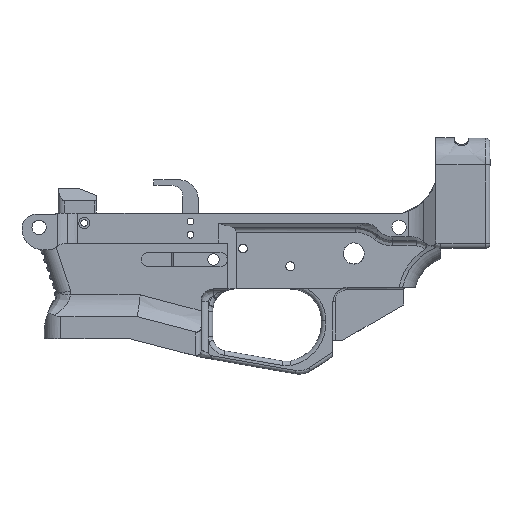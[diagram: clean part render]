
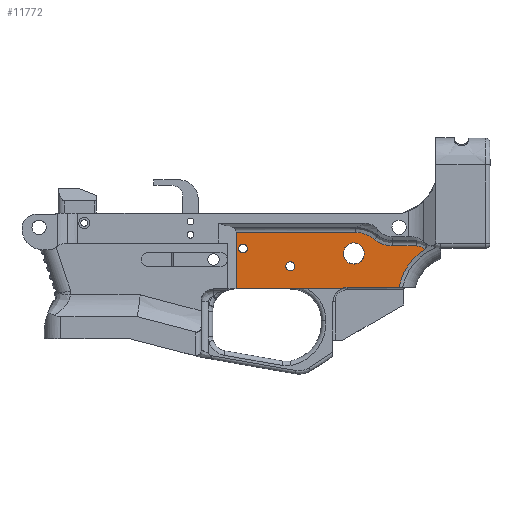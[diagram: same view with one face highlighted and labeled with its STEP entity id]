
A CAD part, left-side view. The second image highlights one B-rep face of the part: STEP entity #11772.
In plain terms, the highlighted planar face has unit normal (-1, 0, 0) as drawn and (1, 0, 0) by its records, which use the part's own axes.
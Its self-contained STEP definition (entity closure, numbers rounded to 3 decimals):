
#218=FACE_BOUND('',#1731,.T.);
#219=FACE_BOUND('',#1732,.T.);
#220=FACE_BOUND('',#1733,.T.);
#337=PLANE('',#12592);
#603=CIRCLE('',#12593,6.35);
#604=CIRCLE('',#12594,4.763);
#605=CIRCLE('',#12595,4.763);
#606=CIRCLE('',#12596,1.981);
#607=CIRCLE('',#12597,1.981);
#1046=FACE_OUTER_BOUND('',#1730,.T.);
#1730=EDGE_LOOP('',(#8945,#8946,#8947,#8948,#8949,#8950,#8951,#8952,#8953,
#8954));
#1731=EDGE_LOOP('',(#8955,#8956));
#1732=EDGE_LOOP('',(#8957));
#1733=EDGE_LOOP('',(#8958));
#2511=B_SPLINE_CURVE_WITH_KNOTS('',3,(#24650,#24651,#24652,#24653,#24654,
#24655,#24656,#24657,#24658,#24659,#24660,#24661,#24662,#24663,#24664,#24665),
 .UNSPECIFIED.,.F.,.F.,(4,3,3,3,3,4),(1.967,2.017,
2.391,2.578,3.327,4.075),
 .UNSPECIFIED.);
#2512=B_SPLINE_CURVE_WITH_KNOTS('',3,(#24667,#24668,#24669,#24670),
 .UNSPECIFIED.,.F.,.F.,(4,4),(-0.291,0.121),
 .UNSPECIFIED.);
#2513=B_SPLINE_CURVE_WITH_KNOTS('',3,(#24674,#24675,#24676,#24677),
 .UNSPECIFIED.,.F.,.F.,(4,4),(0.77,1.466),
 .UNSPECIFIED.);
#2514=B_SPLINE_CURVE_WITH_KNOTS('',3,(#24679,#24680,#24681,#24682,#24683),
 .UNSPECIFIED.,.F.,.F.,(4,1,4),(0.,0.394,0.92),
 .UNSPECIFIED.);
#3275=LINE('',#23094,#4092);
#3332=LINE('',#24642,#4149);
#3333=LINE('',#24648,#4150);
#3334=LINE('',#24672,#4151);
#3335=LINE('',#24684,#4152);
#4092=VECTOR('',#14217,10.);
#4149=VECTOR('',#14364,10.);
#4150=VECTOR('',#14371,10.);
#4151=VECTOR('',#14372,10.);
#4152=VECTOR('',#14373,10.);
#5094=VERTEX_POINT('',#23091);
#5095=VERTEX_POINT('',#23093);
#5148=VERTEX_POINT('',#24641);
#5149=VERTEX_POINT('',#24645);
#5150=VERTEX_POINT('',#24647);
#5151=VERTEX_POINT('',#24649);
#5152=VERTEX_POINT('',#24666);
#5153=VERTEX_POINT('',#24671);
#5154=VERTEX_POINT('',#24673);
#5155=VERTEX_POINT('',#24678);
#5156=VERTEX_POINT('',#24685);
#5157=VERTEX_POINT('',#24686);
#5158=VERTEX_POINT('',#24689);
#5159=VERTEX_POINT('',#24691);
#6492=EDGE_CURVE('',#5094,#5095,#3275,.T.);
#6581=EDGE_CURVE('',#5095,#5148,#3332,.F.);
#6583=EDGE_CURVE('',#5149,#5094,#603,.T.);
#6584=EDGE_CURVE('',#5150,#5149,#3333,.T.);
#6585=EDGE_CURVE('',#5151,#5150,#2511,.T.);
#6586=EDGE_CURVE('',#5152,#5151,#2512,.T.);
#6587=EDGE_CURVE('',#5153,#5152,#3334,.T.);
#6588=EDGE_CURVE('',#5154,#5153,#2513,.T.);
#6589=EDGE_CURVE('',#5155,#5154,#2514,.T.);
#6590=EDGE_CURVE('',#5148,#5155,#3335,.T.);
#6591=EDGE_CURVE('',#5156,#5157,#604,.T.);
#6592=EDGE_CURVE('',#5157,#5156,#605,.T.);
#6593=EDGE_CURVE('',#5158,#5158,#606,.T.);
#6594=EDGE_CURVE('',#5159,#5159,#607,.T.);
#8945=ORIENTED_EDGE('',*,*,#6581,.F.);
#8946=ORIENTED_EDGE('',*,*,#6492,.F.);
#8947=ORIENTED_EDGE('',*,*,#6583,.F.);
#8948=ORIENTED_EDGE('',*,*,#6584,.F.);
#8949=ORIENTED_EDGE('',*,*,#6585,.F.);
#8950=ORIENTED_EDGE('',*,*,#6586,.F.);
#8951=ORIENTED_EDGE('',*,*,#6587,.F.);
#8952=ORIENTED_EDGE('',*,*,#6588,.F.);
#8953=ORIENTED_EDGE('',*,*,#6589,.F.);
#8954=ORIENTED_EDGE('',*,*,#6590,.F.);
#8955=ORIENTED_EDGE('',*,*,#6591,.F.);
#8956=ORIENTED_EDGE('',*,*,#6592,.F.);
#8957=ORIENTED_EDGE('',*,*,#6593,.F.);
#8958=ORIENTED_EDGE('',*,*,#6594,.F.);
#11772=ADVANCED_FACE('',(#1046,#218,#219,#220),#337,.T.);
#12592=AXIS2_PLACEMENT_3D('',#24644,#14367,#14368);
#12593=AXIS2_PLACEMENT_3D('',#24646,#14369,#14370);
#12594=AXIS2_PLACEMENT_3D('',#24687,#14374,#14375);
#12595=AXIS2_PLACEMENT_3D('',#24688,#14376,#14377);
#12596=AXIS2_PLACEMENT_3D('',#24690,#14378,#14379);
#12597=AXIS2_PLACEMENT_3D('',#24692,#14380,#14381);
#14217=DIRECTION('',(0.,-1.,0.));
#14364=DIRECTION('',(0.,0.,-1.));
#14367=DIRECTION('center_axis',(1.,0.,
0.));
#14368=DIRECTION('ref_axis',(0.,0.,
1.));
#14369=DIRECTION('center_axis',(1.,0.,
0.));
#14370=DIRECTION('ref_axis',(0.,0.707,0.707));
#14371=DIRECTION('',(0.,-1.,0.));
#14372=DIRECTION('',(0.,1.,0.));
#14373=DIRECTION('',(0.,1.,0.));
#14374=DIRECTION('center_axis',(1.,0.,
0.));
#14375=DIRECTION('ref_axis',(0.,0.707,0.707));
#14376=DIRECTION('center_axis',(1.,0.,
0.));
#14377=DIRECTION('ref_axis',(0.,0.707,0.707));
#14378=DIRECTION('center_axis',(1.,0.,
0.));
#14379=DIRECTION('ref_axis',(0.,0.,-1.));
#14380=DIRECTION('center_axis',(1.,0.,
0.));
#14381=DIRECTION('ref_axis',(0.,0.,-1.));
#23091=CARTESIAN_POINT('',(11.459,-24.77,-73.652));
#23093=CARTESIAN_POINT('',(11.48,-71.878,-73.652));
#23094=CARTESIAN_POINT('',(11.486,-86.91,-73.652));
#24641=CARTESIAN_POINT('',(11.478,-71.878,-48.284));
#24642=CARTESIAN_POINT('',(11.477,-71.878,-20.744));
#24644=CARTESIAN_POINT('Origin',(11.484,-86.554,-39.376));
#24645=CARTESIAN_POINT('',(11.458,-21.946,-72.99));
#24646=CARTESIAN_POINT('Origin',(11.458,-21.946,-79.34));
#24647=CARTESIAN_POINT('',(11.447,1.452,-72.99));
#24648=CARTESIAN_POINT('',(11.502,-123.497,-72.99));
#24649=CARTESIAN_POINT('',(11.442,12.797,-55.979));
#24650=CARTESIAN_POINT('Ctrl Pts',(11.443,12.798,-55.98));
#24651=CARTESIAN_POINT('Ctrl Pts',(11.443,12.66,-56.07));
#24652=CARTESIAN_POINT('Ctrl Pts',(11.443,12.522,-56.162));
#24653=CARTESIAN_POINT('Ctrl Pts',(11.443,12.386,-56.255));
#24654=CARTESIAN_POINT('Ctrl Pts',(11.444,11.361,-56.953));
#24655=CARTESIAN_POINT('Ctrl Pts',(11.444,10.391,-57.721));
#24656=CARTESIAN_POINT('Ctrl Pts',(11.444,9.473,-58.562));
#24657=CARTESIAN_POINT('Ctrl Pts',(11.445,9.014,-58.983));
#24658=CARTESIAN_POINT('Ctrl Pts',(11.445,8.568,-59.422));
#24659=CARTESIAN_POINT('Ctrl Pts',(11.445,8.139,-59.875));
#24660=CARTESIAN_POINT('Ctrl Pts',(11.446,6.424,-61.688));
#24661=CARTESIAN_POINT('Ctrl Pts',(11.447,4.982,-63.729));
#24662=CARTESIAN_POINT('Ctrl Pts',(11.447,3.853,-65.945));
#24663=CARTESIAN_POINT('Ctrl Pts',(11.448,2.725,-68.162));
#24664=CARTESIAN_POINT('Ctrl Pts',(11.448,1.909,-70.553));
#24665=CARTESIAN_POINT('Ctrl Pts',(11.449,1.453,-72.99));
#24666=CARTESIAN_POINT('',(11.443,9.175,-54.294));
#24667=CARTESIAN_POINT('Ctrl Pts',(11.443,9.175,-54.294));
#24668=CARTESIAN_POINT('Ctrl Pts',(11.443,10.547,-54.294));
#24669=CARTESIAN_POINT('Ctrl Pts',(11.442,11.892,-54.948));
#24670=CARTESIAN_POINT('Ctrl Pts',(11.442,12.797,-55.979));
#24671=CARTESIAN_POINT('',(11.448,-1.492,-54.293));
#24672=CARTESIAN_POINT('',(11.467,-46.188,-54.287));
#24673=CARTESIAN_POINT('',(11.451,-9.568,-51.364));
#24674=CARTESIAN_POINT('Ctrl Pts',(11.451,-9.568,-51.364));
#24675=CARTESIAN_POINT('Ctrl Pts',(11.45,-7.325,-53.237));
#24676=CARTESIAN_POINT('Ctrl Pts',(11.449,-4.415,-54.292));
#24677=CARTESIAN_POINT('Ctrl Pts',(11.448,-1.492,-54.293));
#24678=CARTESIAN_POINT('',(11.455,-18.043,-48.291));
#24679=CARTESIAN_POINT('Ctrl Pts',(11.455,-18.043,-48.291));
#24680=CARTESIAN_POINT('Ctrl Pts',(11.454,-16.729,-48.291));
#24681=CARTESIAN_POINT('Ctrl Pts',(11.453,-13.654,-48.728));
#24682=CARTESIAN_POINT('Ctrl Pts',(11.452,-10.914,-50.241));
#24683=CARTESIAN_POINT('Ctrl Pts',(11.451,-9.568,-51.364));
#24684=CARTESIAN_POINT('',(11.469,-51.045,-48.287));
#24685=CARTESIAN_POINT('',(11.454,-15.289,-54.606));
#24686=CARTESIAN_POINT('',(11.457,-22.278,-61.066));
#24687=CARTESIAN_POINT('Origin',(11.456,-18.911,-57.699));
#24688=CARTESIAN_POINT('Origin',(11.456,-18.911,-57.699));
#24689=CARTESIAN_POINT('',(11.468,-47.498,-61.485));
#24690=CARTESIAN_POINT('Origin',(11.468,-47.498,-63.467));
#24691=CARTESIAN_POINT('',(11.477,-68.774,-53.51));
#24692=CARTESIAN_POINT('Origin',(11.477,-68.774,-55.491));
